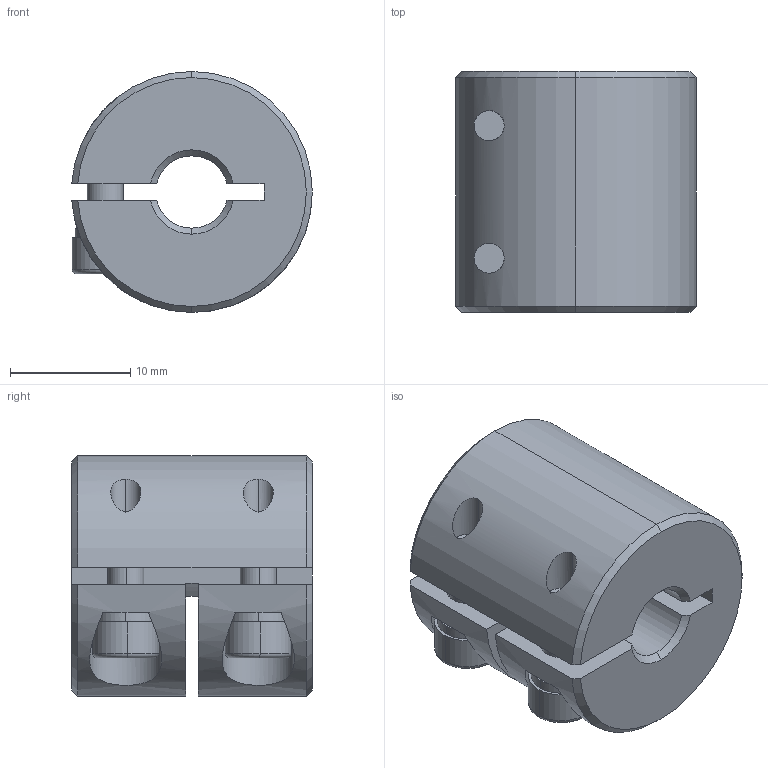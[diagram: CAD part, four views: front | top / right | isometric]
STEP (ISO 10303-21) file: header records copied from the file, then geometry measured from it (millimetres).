
FILE_DESCRIPTION (( 'STEP AP203' ), '1' );
FILE_NAME ('LL-B-D20L20-6-6.STEP', '2021-11-03T05:25:09', ( '' ), ( '' ), 'SwSTEP 2.0', 'SolidWorks 2018', '' );
FILE_SCHEMA (( 'CONFIG_CONTROL_DESIGN' ));
Length unit declared in the file: millimetre
Products named in the file (1): LL-B-D20L20-6-6
Bounding box: 19.98 x 20 x 20 mm (x, y, z)
Volume: 5217.8 mm3; surface area: 3122.5 mm2
Topology: 1 solids, 1 shells, 110 faces, 283 edges, 177 vertices
Faces by surface type: plane 51, cylinder 39, cone 16, torus 4
Entity records: 3593 total; most frequent: CARTESIAN_POINT 801, DIRECTION 594, ORIENTED_EDGE 558, EDGE_CURVE 279, AXIS2_PLACEMENT_3D 230, VERTEX_POINT 177, LINE 134, VECTOR 134
